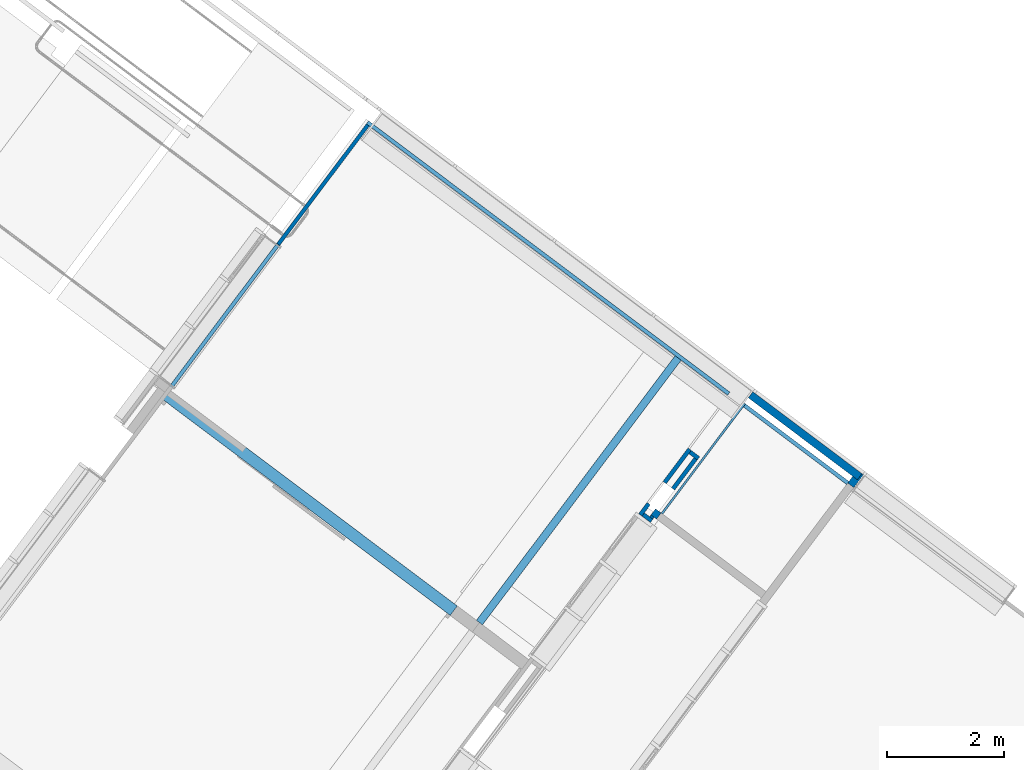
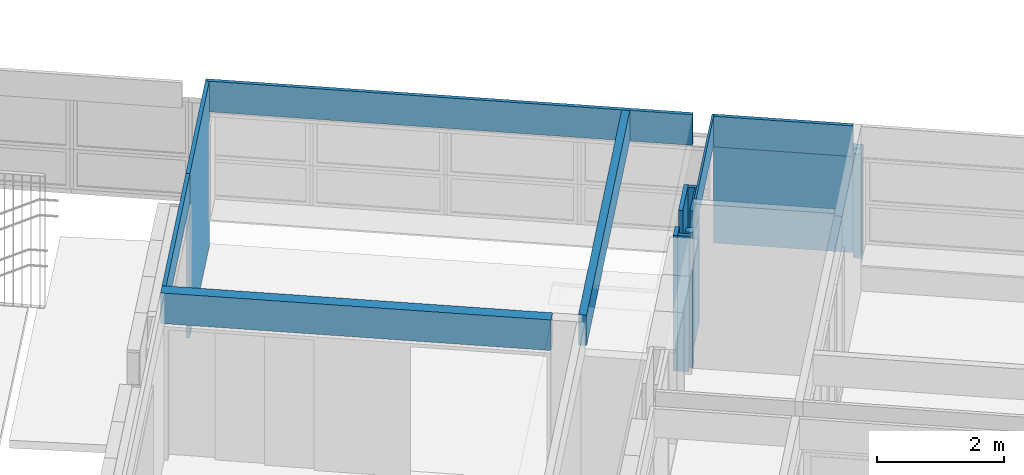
# One storey, part 124 of 243: 16 walls.
"""IFC2X3 building model written with IfcOpenShell, lengths in metres."""

from ifc_helpers import new_model, entity, si_unit, converted_unit, derived_unit, direction, frame, frame_2d, origin, place, context, subcontext, project, spatial, polyline, rectangle, extrude, clip, bounded_halfspace, material, layer, layer_set, layer_usage, type_object, element, save


model = new_model("IFC2X3")

# Units and contexts
model_context = context("Model", 3, precision=1e-05, world=origin(), true_north=direction((6.123031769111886e-17, 1.0)))
body_context = subcontext(model_context, "Body", "Model", "MODEL_VIEW")
ifc_project = project(units=[si_unit("LENGTHUNIT", "METRE"), si_unit("AREAUNIT", "SQUARE_METRE"), si_unit("VOLUMEUNIT", "CUBIC_METRE"), converted_unit("PLANEANGLEUNIT", "DEGREE", entity("IfcRatioMeasure", 0.017453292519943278), si_unit("PLANEANGLEUNIT", "RADIAN"), dimensions=[0, 0, 0, 0, 0, 0, 0]), si_unit("MASSUNIT", "GRAM", prefix="KILO"), derived_unit("MASSDENSITYUNIT", [(si_unit("MASSUNIT", "GRAM", prefix="KILO"), 1), (si_unit("LENGTHUNIT", "METRE"), -3)]), derived_unit("IONCONCENTRATIONUNIT", [(si_unit("MASSUNIT", "GRAM", prefix="KILO"), 1), (si_unit("LENGTHUNIT", "METRE"), -3)]), derived_unit("MOMENTOFINERTIAUNIT", [(si_unit("LENGTHUNIT", "METRE"), 4)]), si_unit("TIMEUNIT", "SECOND"), si_unit("FREQUENCYUNIT", "HERTZ"), si_unit("THERMODYNAMICTEMPERATUREUNIT", "DEGREE_CELSIUS"), derived_unit("THERMALTRANSMITTANCEUNIT", [(si_unit("MASSUNIT", "GRAM", prefix="KILO"), 1), (si_unit("THERMODYNAMICTEMPERATUREUNIT", "KELVIN"), -1), (si_unit("TIMEUNIT", "SECOND"), -3)]), derived_unit("THERMALCONDUCTANCEUNIT", [(si_unit("MASSUNIT", "GRAM", prefix="KILO"), 1), (si_unit("THERMODYNAMICTEMPERATUREUNIT", "KELVIN"), -1), (si_unit("TIMEUNIT", "SECOND"), -3), (si_unit("LENGTHUNIT", "METRE"), 1)]), derived_unit("VOLUMETRICFLOWRATEUNIT", [(si_unit("LENGTHUNIT", "METRE"), 3), (si_unit("TIMEUNIT", "SECOND"), -1)]), derived_unit("MASSFLOWRATEUNIT", [(si_unit("MASSUNIT", "GRAM", prefix="KILO"), 1), (si_unit("TIMEUNIT", "SECOND"), -1)]), derived_unit("ROTATIONALFREQUENCYUNIT", [(si_unit("TIMEUNIT", "SECOND"), -1)]), si_unit("ELECTRICCURRENTUNIT", "AMPERE"), si_unit("ELECTRICVOLTAGEUNIT", "VOLT"), si_unit("POWERUNIT", "WATT"), si_unit("FORCEUNIT", "NEWTON", prefix="KILO"), si_unit("ILLUMINANCEUNIT", "LUX"), si_unit("LUMINOUSFLUXUNIT", "LUMEN"), si_unit("LUMINOUSINTENSITYUNIT", "CANDELA"), derived_unit("USERDEFINED", [(si_unit("MASSUNIT", "GRAM", prefix="KILO"), -1), (si_unit("LENGTHUNIT", "METRE"), -2), (si_unit("TIMEUNIT", "SECOND"), 3), (si_unit("LUMINOUSFLUXUNIT", "LUMEN"), 1)]), derived_unit("USERDEFINED", [(si_unit("MASSUNIT", "GRAM", prefix="KILO"), 1), (si_unit("TIMEUNIT", "SECOND"), -3), (si_unit("LENGTHUNIT", "METRE"), 3), (si_unit("ELECTRICCURRENTUNIT", "AMPERE"), -2)]), derived_unit("SOUNDPOWERUNIT", [(si_unit("MASSUNIT", "GRAM", prefix="KILO"), 1), (si_unit("TIMEUNIT", "SECOND"), -3), (si_unit("LENGTHUNIT", "METRE"), 2)]), derived_unit("SOUNDPRESSUREUNIT", [(si_unit("MASSUNIT", "GRAM", prefix="KILO"), 1), (si_unit("LENGTHUNIT", "METRE"), -1), (si_unit("TIMEUNIT", "SECOND"), -2)]), derived_unit("LINEARVELOCITYUNIT", [(si_unit("LENGTHUNIT", "METRE"), 1), (si_unit("TIMEUNIT", "SECOND"), -1)]), si_unit("PRESSUREUNIT", "PASCAL"), derived_unit("USERDEFINED", [(si_unit("MASSUNIT", "GRAM", prefix="KILO"), 1), (si_unit("LENGTHUNIT", "METRE"), -2), (si_unit("TIMEUNIT", "SECOND"), -2)]), derived_unit("LINEARFORCEUNIT", [(si_unit("MASSUNIT", "GRAM", prefix="KILO"), 1), (si_unit("TIMEUNIT", "SECOND"), -2)]), derived_unit("PLANARFORCEUNIT", [(si_unit("MASSUNIT", "GRAM", prefix="KILO"), 1), (si_unit("LENGTHUNIT", "METRE"), -1), (si_unit("TIMEUNIT", "SECOND"), -2)]), derived_unit("SPECIFICHEATCAPACITYUNIT", [(si_unit("THERMODYNAMICTEMPERATUREUNIT", "KELVIN"), -1), (si_unit("LENGTHUNIT", "METRE"), 2), (si_unit("TIMEUNIT", "SECOND"), -2)]), derived_unit("HEATINGVALUEUNIT", [(si_unit("LENGTHUNIT", "METRE"), 2), (si_unit("TIMEUNIT", "SECOND"), -2)]), derived_unit("VAPORPERMEABILITYUNIT", [(si_unit("LENGTHUNIT", "METRE"), -1), (si_unit("TIMEUNIT", "SECOND"), 1)]), derived_unit("DYNAMICVISCOSITYUNIT", [(si_unit("MASSUNIT", "GRAM", prefix="KILO"), 1), (si_unit("TIMEUNIT", "SECOND"), -1), (si_unit("LENGTHUNIT", "METRE"), -1)]), derived_unit("THERMALEXPANSIONCOEFFICIENTUNIT", [(si_unit("THERMODYNAMICTEMPERATUREUNIT", "KELVIN"), -1)]), derived_unit("MODULUSOFELASTICITYUNIT", [(si_unit("MASSUNIT", "GRAM", prefix="KILO"), 1), (si_unit("LENGTHUNIT", "METRE"), -1), (si_unit("TIMEUNIT", "SECOND"), -2)]), derived_unit("ISOTHERMALMOISTURECAPACITYUNIT", [(si_unit("LENGTHUNIT", "METRE"), 3), (si_unit("MASSUNIT", "GRAM", prefix="KILO"), -1)]), derived_unit("MOISTUREDIFFUSIVITYUNIT", [(si_unit("TIMEUNIT", "SECOND"), -1), (si_unit("LENGTHUNIT", "METRE"), 2)])], contexts=[model_context])

# Site, building, storey
site_placement = place(None, frame((0.0, 0.0, 235.0), z_axis=(0.0, 0.0, 1.0), x_axis=(-0.7996477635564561, 0.6004693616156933, 0.0)))
site = spatial("IfcSite", under=ifc_project, at=site_placement, Name="Default", CompositionType="ELEMENT")
building_placement = place(site_placement, origin())
building = spatial("IfcBuilding", under=site, at=building_placement, CompositionType="ELEMENT")
storey_placement = place(building_placement, origin())
storey = spatial("IfcBuildingStorey", under=building, at=storey_placement, Name="P0- Escola", CompositionType="ELEMENT", Elevation=0.0)

# Walls
ifc_material_1 = material(Name="_Guix laminat- ENV")
ifc_layer_1 = layer(ifc_material_1, 0.02)
ifc_material_2 = material(Name="_Aillament")
ifc_layer_2 = layer(ifc_material_2, 0.045)
ifc_layer_set_1 = layer_set([ifc_layer_1, ifc_layer_2], Name="Muro básico:REV- Guix Laminat Extradossat- Aillament- T1- 6,5 cm")
ifc_layer_usage_1 = layer_usage(ifc_layer_set_1, "AXIS2", "NEGATIVE", 0.032499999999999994)
wall_type_1 = type_object("IfcWallType", Name="Muro básico:REV- Guix Laminat Extradossat- Aillament- T1- 6,5 cm", PredefinedType="STANDARD", material=ifc_layer_set_1)
wall_1_placement = place(storey_placement, frame((23.612647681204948, -41.97519175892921, 0.0), z_axis=(0.0, 0.0, 1.0), x_axis=(0.0, 1.0, 0.0)))
element("IfcWallStandardCase", 1, at=wall_1_placement, inside=storey, type_object=wall_type_1, material=ifc_layer_usage_1, Name="Muro básico:REV- Guix Laminat Extradossat- Aillament- T1- 6,5 cm", ObjectType="Muro básico:REV- Guix Laminat Extradossat- Aillament- T1- 6,5 cm", context=body_context, shape_type="SweptSolid", body=[
    extrude(rectangle(XDim=2.5449999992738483, YDim=0.06500000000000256, at=frame_2d((1.2724999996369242, 0.0), x_axis=(-1.0, 0.0))), origin(), (0.0, 0.0, 1.0), 3.150000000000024),
])
wall_2_placement = place(storey_placement, frame((23.612647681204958, -39.430191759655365, 2.600000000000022), z_axis=(0.0, 0.0, 1.0), x_axis=(0.0, 1.0, 0.0)))
element("IfcWallStandardCase", 2, at=wall_2_placement, inside=storey, type_object=wall_type_1, material=ifc_layer_usage_1, Name="Muro básico:REV- Guix Laminat Extradossat- Aillament- T1- 6,5 cm", ObjectType="Muro básico:REV- Guix Laminat Extradossat- Aillament- T1- 6,5 cm", context=body_context, shape_type="SweptSolid", body=[
    extrude(rectangle(XDim=3.0940000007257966, YDim=0.06500000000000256, at=frame_2d((1.5470000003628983, -6.938893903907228e-17), x_axis=(-1.0, 0.0))), origin(), (0.0, 0.0, 1.0), 0.5500000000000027),
])
wall_3_placement = place(storey_placement, frame((15.945147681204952, -42.00769175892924, 2.5649999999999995)))
element("IfcWallStandardCase", 3, at=wall_3_placement, inside=storey, type_object=wall_type_1, material=ifc_layer_usage_1, Name="Muro básico:REV- Guix Laminat Extradossat- Aillament- T1- 6,5 cm", ObjectType="Muro básico:REV- Guix Laminat Extradossat- Aillament- T1- 6,5 cm", context=body_context, shape_type="SweptSolid", body=[
    extrude(rectangle(XDim=7.699999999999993, YDim=0.06500000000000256, at=frame_2d((3.8499999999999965, -5.551115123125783e-17), x_axis=(-1.0, 0.0))), origin(), (0.0, 0.0, 1.0), 0.5850000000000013),
])
wall_4_placement = place(storey_placement, frame((13.41014768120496, -42.007691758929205, 2.5649999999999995)))
element("IfcWallStandardCase", 4, at=wall_4_placement, inside=storey, type_object=wall_type_1, material=ifc_layer_usage_1, Name="Muro básico:REV- Guix Laminat Extradossat- Aillament- T1- 6,5 cm", ObjectType="Muro básico:REV- Guix Laminat Extradossat- Aillament- T1- 6,5 cm", context=body_context, shape_type="SweptSolid", body=[
    extrude(rectangle(XDim=2.1999999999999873, YDim=0.06500000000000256, at=frame_2d((1.0999999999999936, 3.122502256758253e-17), x_axis=(-1.0, 0.0))), origin(), (0.0, 0.0, 1.0), 0.5850000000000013),
])
ifc_layer_3 = layer(ifc_material_1, 0.02)
ifc_layer_4 = layer(ifc_material_2, 0.015)
ifc_layer_set_2 = layer_set([ifc_layer_3, ifc_layer_4], Name="Muro básico:REV- Guix Laminat Extradossat- Aillament- T1- 3,5 cm")
ifc_layer_usage_2 = layer_usage(ifc_layer_set_2, "AXIS2", "NEGATIVE", 0.017499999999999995)
wall_type_2 = type_object("IfcWallType", Name="Muro básico:REV- Guix Laminat Extradossat- Aillament- T1- 3,5 cm", PredefinedType="STANDARD", material=ifc_layer_set_2)
wall_5_placement = place(storey_placement, frame((15.627647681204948, -42.04019175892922, 2.6), z_axis=(0.0, 0.0, 1.0), x_axis=(0.0, 1.0, 0.0)))
element("IfcWallStandardCase", 5, at=wall_5_placement, inside=storey, type_object=wall_type_2, material=ifc_layer_usage_2, Name="Muro básico:REV- Guix Laminat Extradossat- Aillament- T1- 3,5 cm", ObjectType="Muro básico:REV- Guix Laminat Extradossat- Aillament- T1- 3,5 cm", context=body_context, shape_type="SweptSolid", body=[
    extrude(rectangle(XDim=2.3499999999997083, YDim=0.035000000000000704, at=frame_2d((1.1749999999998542, 0.0), x_axis=(-1.0, 0.0))), origin(), (0.0, 0.0, 1.0), 0.5500000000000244),
])
ifc_layer_5 = layer(ifc_material_1, 0.03)
ifc_material_3 = material(Name="_Genèric perfils, muntants, rastrells")
ifc_layer_6 = layer(ifc_material_3, 0.07)
ifc_layer_7 = layer(ifc_material_1, 0.03)
ifc_layer_set_3 = layer_set([ifc_layer_5, ifc_layer_6, ifc_layer_7], Name="Muro básico:ENV- Guix Laminat- 13 cm")
ifc_layer_usage_3 = layer_usage(ifc_layer_set_3, "AXIS2", "POSITIVE", -0.06499999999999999)
wall_type_3 = type_object("IfcWallType", Name="Muro básico:ENV- Guix Laminat- 13 cm", PredefinedType="STANDARD", material=ifc_layer_set_3)
wall_6_placement = place(storey_placement, frame((15.76514768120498, -39.6251917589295, 0.0), z_axis=(0.0, 0.0, 1.0), x_axis=(-1.0, 0.0, 0.0)))
element("IfcWallStandardCase", 6, at=wall_6_placement, inside=storey, type_object=wall_type_3, material=ifc_layer_usage_3, Name="Muro básico:ENV- Guix Laminat- 13 cm", ObjectType="Muro básico:ENV- Guix Laminat- 13 cm", context=body_context, shape_type="SweptSolid", body=[
    extrude(rectangle(XDim=0.1200000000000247, YDim=0.1300000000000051, at=frame_2d((0.06000000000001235, 0.0), x_axis=(-1.0, 0.0))), origin(), (0.0, 0.0, 1.0), 2.6000000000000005),
])
wall_7_placement = place(storey_placement, frame((17.000147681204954, -41.975191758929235, 2.565), z_axis=(0.0, 0.0, 1.0), x_axis=(0.0, 1.0, 0.0)))
element("IfcWallStandardCase", 7, at=wall_7_placement, inside=storey, type_object=wall_type_3, material=ifc_layer_usage_3, Name="Muro básico:ENV- Guix Laminat- 13 cm", ObjectType="Muro básico:ENV- Guix Laminat- 13 cm", context=body_context, shape_type="SweptSolid", body=[
    extrude(rectangle(XDim=5.638999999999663, YDim=0.13000000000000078, at=frame_2d((2.8194999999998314, 1.8041124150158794e-16), x_axis=(-1.0, 0.0))), origin(), (0.0, 0.0, 1.0), 0.5850000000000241),
])
ifc_layer_usage_4 = layer_usage(ifc_layer_set_3, "AXIS2", "NEGATIVE", 0.06499999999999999)
wall_8_placement = place(storey_placement, frame((13.310147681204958, -42.21519175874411, 0.6000000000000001)))
element("IfcWallStandardCase", 8, at=wall_8_placement, inside=storey, type_object=wall_type_3, material=ifc_layer_usage_4, Name="Muro básico:ENV- Guix Laminat- 13 cm", ObjectType="Muro básico:ENV- Guix Laminat- 13 cm", context=body_context, shape_type="SweptSolid", body=[
    extrude(rectangle(XDim=2.326644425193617, YDim=0.1300000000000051, at=frame_2d((1.1633222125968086, -1.8041124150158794e-16), x_axis=(-1.0, 0.0))), origin(), (0.0, 0.0, 1.0), 2.000000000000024),
])
wall_9_placement = place(storey_placement, frame((13.34514768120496, -42.007691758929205, 0.6000000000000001), z_axis=(0.0, 0.0, 1.0), x_axis=(0.0, -1.0, 0.0)))
element("IfcWallStandardCase", 9, at=wall_9_placement, inside=storey, type_object=wall_type_3, material=ifc_layer_usage_4, Name="Muro básico:ENV- Guix Laminat- 13 cm", ObjectType="Muro básico:ENV- Guix Laminat- 13 cm", context=body_context, shape_type="Clipping", body=[
    clip(clip(extrude(rectangle(XDim=0.2724999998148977, YDim=0.13000000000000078, at=frame_2d((0.13624999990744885, 0.0), x_axis=(-1.0, 0.0))), origin(), (0.0, 0.0, 1.0), 2.000000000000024), bounded_halfspace(frame((0.14249999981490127, -0.035000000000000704, 2.0), z_axis=(-1.0, 0.0, 0.0), x_axis=(0.0, -1.0, 0.0)), True, frame((0.14249999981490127, -0.035000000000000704, 2.0), z_axis=(-1.0, 0.0, 0.0), x_axis=(0.0, -1.0, 0.0)), polyline([(0.0, 0.0), (-0.10000000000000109, 0.0), (-0.10000000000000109, -2.0), (0.0, -2.0), (0.0, 0.0)]))), bounded_halfspace(frame((0.14249999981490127, -0.035000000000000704, 0.0), z_axis=(0.0, -1.0, 0.0), x_axis=(-1.0, 0.0, 0.0)), True, frame((0.14249999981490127, -0.035000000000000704, 0.0), z_axis=(0.0, -1.0, 0.0), x_axis=(-1.0, 0.0, 0.0)), polyline([(0.0, 0.0), (-0.12999999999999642, 0.0), (-0.12999999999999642, -2.0), (0.0, -2.0), (0.0, 0.0)]))),
])
ifc_layer_8 = layer(ifc_material_1, 0.015)
ifc_layer_9 = layer(ifc_material_3, 0.085)
ifc_layer_10 = layer(ifc_material_3, 0.085)
ifc_layer_11 = layer(ifc_material_1, 0.015)
ifc_layer_set_4 = layer_set([ifc_layer_8, ifc_layer_9, ifc_layer_10, ifc_layer_11], Name="Muro básico:ENV- Guix Laminat- 22 cm")
ifc_layer_usage_5 = layer_usage(ifc_layer_set_4, "AXIS2", "NEGATIVE", 0.10000000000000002)
wall_type_4 = type_object("IfcWallType", Name="Muro básico:ENV- Guix Laminat- 22 cm", PredefinedType="STANDARD", material=ifc_layer_set_4)
wall_10_placement = place(storey_placement, frame((17.472147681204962, -36.23619175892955, 2.5649999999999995)))
element("IfcWallStandardCase", 10, at=wall_10_placement, inside=storey, type_object=wall_type_4, material=ifc_layer_usage_5, Name="Muro básico:ENV- Guix Laminat- 22 cm", ObjectType="Muro básico:ENV- Guix Laminat- 22 cm", context=body_context, shape_type="SweptSolid", body=[
    extrude(rectangle(XDim=6.172999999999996, YDim=0.19999999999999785, at=frame_2d((3.086499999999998, 4.718447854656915e-16), x_axis=(-1.0, 0.0))), origin(), (0.0, 0.0, 1.0), 0.5850000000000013),
])
ifc_layer_12 = layer(ifc_material_1, 0.015)
ifc_layer_13 = layer(ifc_material_3, 0.055)
ifc_layer_set_5 = layer_set([ifc_layer_12, ifc_layer_13], Name="Muro básico:ENV- Guix Laminat una cara- 7 cm")
ifc_layer_usage_6 = layer_usage(ifc_layer_set_5, "AXIS2", "POSITIVE", -0.035)
wall_type_5 = type_object("IfcWallType", Name="Muro básico:ENV- Guix Laminat una cara- 7 cm", PredefinedType="STANDARD", material=ifc_layer_set_5)
wall_11_placement = place(storey_placement, frame((15.910147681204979, -39.69019175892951, 0.0), z_axis=(0.0, 0.0, 1.0), x_axis=(0.0, 1.0, 0.0)))
element("IfcWallStandardCase", 11, at=wall_11_placement, inside=storey, type_object=wall_type_5, material=ifc_layer_usage_6, Name="Muro básico:ENV- Guix Laminat una cara- 7 cm", ObjectType="Muro básico:ENV- Guix Laminat una cara- 7 cm", context=body_context, shape_type="SweptSolid", body=[
    extrude(rectangle(XDim=0.24000000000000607, YDim=0.07000000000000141, at=frame_2d((0.12000000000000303, -5.134781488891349e-16), x_axis=(-1.0, 0.0))), origin(), (0.0, 0.0, 1.0), 2.6),
])
wall_12_placement = place(storey_placement, frame((15.87514768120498, -39.4851917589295, 0.0), z_axis=(0.0, 0.0, 1.0), x_axis=(-1.0, 0.0, 0.0)))
element("IfcWallStandardCase", 12, at=wall_12_placement, inside=storey, type_object=wall_type_5, material=ifc_layer_usage_6, Name="Muro básico:ENV- Guix Laminat una cara- 7 cm", ObjectType="Muro básico:ENV- Guix Laminat una cara- 7 cm", context=body_context, shape_type="SweptSolid", body=[
    extrude(rectangle(XDim=0.18000000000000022, YDim=0.07000000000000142, at=frame_2d((0.09000000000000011, 5.863365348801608e-16), x_axis=(-1.0, 0.0))), origin(), (0.0, 0.0, 1.0), 2.6),
])
wall_13_placement = place(storey_placement, frame((15.730147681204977, -39.520191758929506, 0.0), z_axis=(0.0, 0.0, 1.0), x_axis=(0.0, -1.0, 0.0)))
element("IfcWallStandardCase", 13, at=wall_13_placement, inside=storey, type_object=wall_type_5, material=ifc_layer_usage_6, Name="Muro básico:ENV- Guix Laminat una cara- 7 cm", ObjectType="Muro básico:ENV- Guix Laminat una cara- 7 cm", context=body_context, shape_type="SweptSolid", body=[
    extrude(rectangle(XDim=0.04000000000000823, YDim=0.07000000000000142, at=frame_2d((0.020000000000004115, 9.71445146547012e-17), x_axis=(-1.0, 0.0))), origin(), (0.0, 0.0, 1.0), 2.6),
])
ifc_layer_usage_7 = layer_usage(ifc_layer_set_5, "AXIS2", "NEGATIVE", 0.035)
wall_14_placement = place(storey_placement, frame((15.910147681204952, -40.14019175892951, 0.0), z_axis=(0.0, 0.0, 1.0), x_axis=(0.0, -1.0, 0.0)))
element("IfcWallStandardCase", 14, at=wall_14_placement, inside=storey, type_object=wall_type_5, material=ifc_layer_usage_7, Name="Muro básico:ENV- Guix Laminat una cara- 7 cm", ObjectType="Muro básico:ENV- Guix Laminat una cara- 7 cm", context=body_context, shape_type="SweptSolid", body=[
    extrude(rectangle(XDim=0.7100000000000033, YDim=0.07000000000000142, at=frame_2d((0.35500000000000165, 6.591949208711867e-16), x_axis=(-1.0, 0.0))), origin(), (0.0, 0.0, 1.0), 2.6),
])
wall_15_placement = place(storey_placement, frame((15.875147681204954, -40.815191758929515, 0.0), z_axis=(0.0, 0.0, 1.0), x_axis=(-1.0, 0.0, 0.0)))
element("IfcWallStandardCase", 15, at=wall_15_placement, inside=storey, type_object=wall_type_5, material=ifc_layer_usage_7, Name="Muro básico:ENV- Guix Laminat una cara- 7 cm", ObjectType="Muro básico:ENV- Guix Laminat una cara- 7 cm", context=body_context, shape_type="SweptSolid", body=[
    extrude(rectangle(XDim=0.18000000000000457, YDim=0.07000000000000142, at=frame_2d((0.09000000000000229, 1.0408340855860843e-17), x_axis=(-1.0, 0.0))), origin(), (0.0, 0.0, 1.0), 2.6),
])
wall_16_placement = place(storey_placement, frame((15.73014768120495, -40.78019175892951, 0.0), z_axis=(0.0, 0.0, 1.0), x_axis=(0.0, 1.0, 0.0)))
element("IfcWallStandardCase", 16, at=wall_16_placement, inside=storey, type_object=wall_type_5, material=ifc_layer_usage_7, Name="Muro básico:ENV- Guix Laminat una cara- 7 cm", ObjectType="Muro básico:ENV- Guix Laminat una cara- 7 cm", context=body_context, shape_type="SweptSolid", body=[
    extrude(rectangle(XDim=0.6400000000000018, YDim=0.07000000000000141, at=frame_2d((0.3200000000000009, 0.0), x_axis=(-1.0, 0.0))), origin(), (0.0, 0.0, 1.0), 2.6),
])

save(model, "model.ifc")
